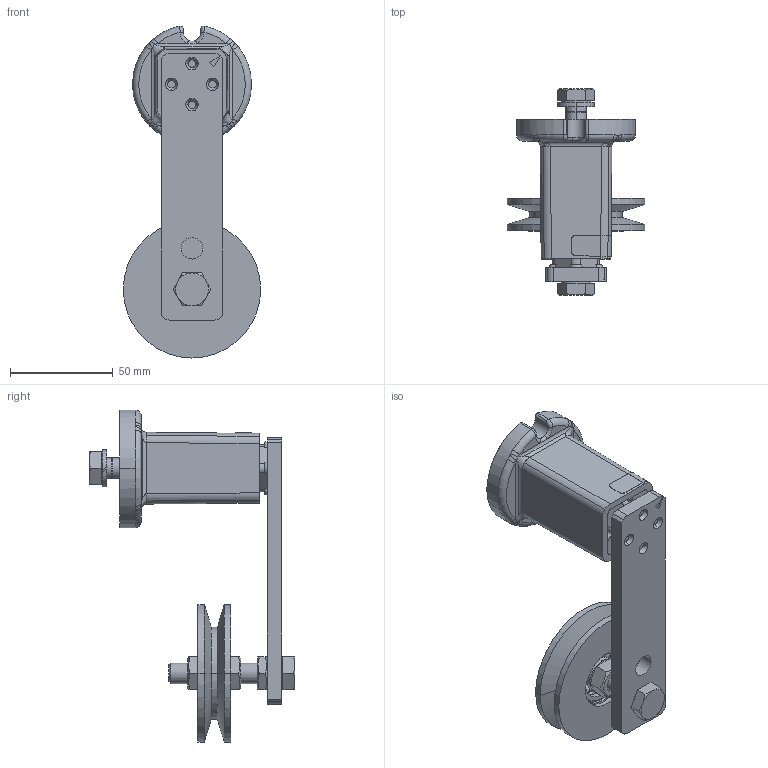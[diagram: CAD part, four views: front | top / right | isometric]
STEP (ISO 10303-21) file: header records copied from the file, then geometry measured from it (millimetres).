
FILE_DESCRIPTION((''),'2;1');
FILE_NAME('\\rostaofc\data\uw\save\daten_f\Normprogramm 3D\Spannelemente\KSE18-SPZ1_06201001.stp','2004-09-28T11:16:15',('uw'),(''),'Autodesk Inventor 8','Autodesk Inventor 8','');
FILE_SCHEMA(('AUTOMOTIVE_DESIGN { 1 0 10303 214 1 1 1 1 }'));
Length unit declared in the file: millimetre
Products named in the file (18): ROSTA-Spannelement KSE 18 SPZ 63-1; ROSTA-Spannelement SE-R18; Gehäuse SE18; Innenteil zu SE-R18; Hebel zu SE18 (m. 2- Loch); 4_10_7386-001; 06408424-002; SK3234-004; 3_10_7387-001; Sechskantschraube - M10 x 30; Federring - A 10; Keilriemenscheibe SPZ 63-1 bearbeitet; Kugellager 6200-Z2; SK3448-004; Sechskantschraube - M10 x 55; Sechskantmutter - M10
Assembly tree (22 placements, depth 4):
  ROSTA-Spannelement KSE 18 SPZ 63-1
    ROSTA-Spannelement SE-R18
      Gehäuse SE18
      Innenteil zu SE-R18
        Hebel zu SE18 (m. 2- Loch)
        4_10_7386-001
      06408424-002
      SK3234-004
      3_10_7387-001  x4
      Sechskantschraube - M10 x 30
      Federring - A 10
    Keilriemenscheibe SPZ 63-1 bearbeitet
      Keilriemenscheibe SPZ 63-1 bearbeitet
      Kugellager 6200-Z2
      SK3448-004  x2
    Sechskantschraube - M10 x 55
    Sechskantmutter - M10
    Sechskantmutter - M10  x2
Bounding box: 67 x 100.3 x 161.89 mm (x, y, z)
Volume: 151325 mm3; surface area: 71467.7 mm2
Topology: 25 solids, 25 shells, 454 faces, 1125 edges, 664 vertices
Faces by surface type: cylinder 150, plane 144, bspline 68, cone 52, sphere 24, torus 16
Entity records: 13808 total; most frequent: CARTESIAN_POINT 4049, DIRECTION 2145, ORIENTED_EDGE 1902, EDGE_CURVE 951, AXIS2_PLACEMENT_3D 904, VERTEX_POINT 570, CIRCLE 492, EDGE_LOOP 438
